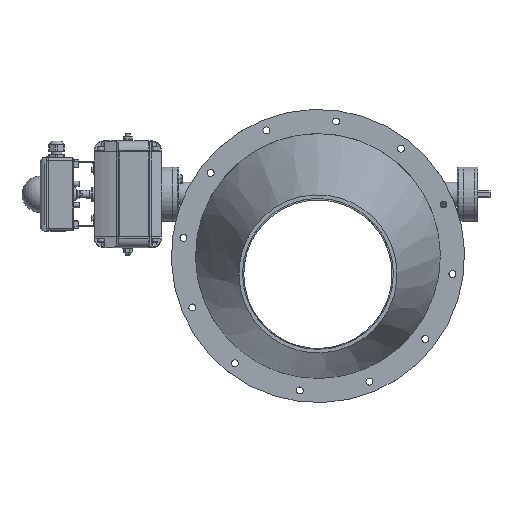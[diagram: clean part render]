
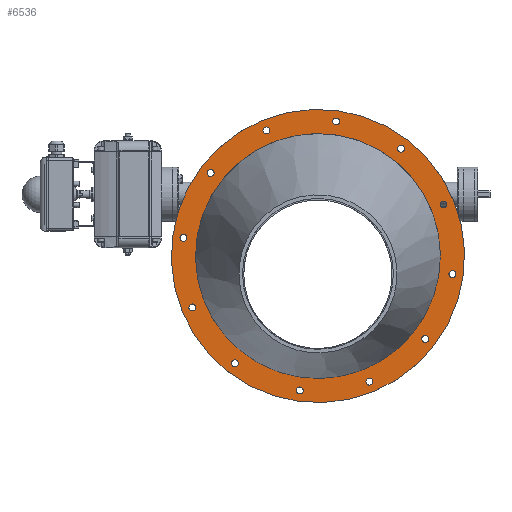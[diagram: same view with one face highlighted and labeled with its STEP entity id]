
A CAD part, top view. The second image highlights one B-rep face of the part: STEP entity #6536.
In plain terms, the highlighted planar face has unit normal (0, 0, 1) as drawn and (0, 0, -1) by its records, which use the part's own axes.
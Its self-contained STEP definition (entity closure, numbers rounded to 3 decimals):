
#5823=CARTESIAN_POINT('',(188.252,-111.978,0.0));
#5824=VERTEX_POINT('',#5823);
#5825=CARTESIAN_POINT('',(194.002,-111.978,0.0));
#5826=DIRECTION('',(0.0,0.0,1.0));
#5827=DIRECTION('',(1.0,0.0,0.0));
#5828=AXIS2_PLACEMENT_3D('',#5825,#5826,#5827);
#5829=CIRCLE('',#5828,5.75);
#5830=EDGE_CURVE('',#5824,#5824,#5829,.T.);
#5872=CARTESIAN_POINT('',(218.25,0.025,0.0));
#5873=VERTEX_POINT('',#5872);
#5874=CARTESIAN_POINT('',(224.,0.025,0.0));
#5875=DIRECTION('',(0.0,0.0,1.0));
#5876=DIRECTION('',(1.0,0.0,0.0));
#5877=AXIS2_PLACEMENT_3D('',#5874,#5875,#5876);
#5878=CIRCLE('',#5877,5.75);
#5879=EDGE_CURVE('',#5873,#5873,#5878,.T.);
#5921=CARTESIAN_POINT('',(188.227,112.022,0.0));
#5922=VERTEX_POINT('',#5921);
#5923=CARTESIAN_POINT('',(193.977,112.022,0.0));
#5924=DIRECTION('',(0.0,0.0,1.0));
#5925=DIRECTION('',(1.0,0.0,0.0));
#5926=AXIS2_PLACEMENT_3D('',#5923,#5924,#5925);
#5927=CIRCLE('',#5926,5.75);
#5928=EDGE_CURVE('',#5922,#5922,#5927,.T.);
#5970=CARTESIAN_POINT('',(106.228,194.002,0.0));
#5971=VERTEX_POINT('',#5970);
#5972=CARTESIAN_POINT('',(111.978,194.002,0.0));
#5973=DIRECTION('',(0.0,0.0,1.0));
#5974=DIRECTION('',(1.0,0.0,0.0));
#5975=AXIS2_PLACEMENT_3D('',#5972,#5973,#5974);
#5976=CIRCLE('',#5975,5.75);
#5977=EDGE_CURVE('',#5971,#5971,#5976,.T.);
#6019=CARTESIAN_POINT('',(-199.727,-112.022,0.0));
#6020=VERTEX_POINT('',#6019);
#6021=CARTESIAN_POINT('',(-193.977,-112.022,0.0));
#6022=DIRECTION('',(0.0,0.0,1.0));
#6023=DIRECTION('',(1.0,0.0,0.0));
#6024=AXIS2_PLACEMENT_3D('',#6021,#6022,#6023);
#6025=CIRCLE('',#6024,5.75);
#6026=EDGE_CURVE('',#6020,#6020,#6025,.T.);
#6068=CARTESIAN_POINT('',(-117.728,-194.002,0.0));
#6069=VERTEX_POINT('',#6068);
#6070=CARTESIAN_POINT('',(-111.978,-194.002,0.0));
#6071=DIRECTION('',(0.0,0.0,1.0));
#6072=DIRECTION('',(1.0,0.0,0.0));
#6073=AXIS2_PLACEMENT_3D('',#6070,#6071,#6072);
#6074=CIRCLE('',#6073,5.75);
#6075=EDGE_CURVE('',#6069,#6069,#6074,.T.);
#6117=CARTESIAN_POINT('',(-5.725,-224.,0.0));
#6118=VERTEX_POINT('',#6117);
#6119=CARTESIAN_POINT('',(0.025,-224.,0.0));
#6120=DIRECTION('',(0.0,0.0,1.0));
#6121=DIRECTION('',(1.0,0.0,0.0));
#6122=AXIS2_PLACEMENT_3D('',#6119,#6120,#6121);
#6123=CIRCLE('',#6122,5.75);
#6124=EDGE_CURVE('',#6118,#6118,#6123,.T.);
#6166=CARTESIAN_POINT('',(106.272,-193.977,0.0));
#6167=VERTEX_POINT('',#6166);
#6168=CARTESIAN_POINT('',(112.022,-193.977,0.0));
#6169=DIRECTION('',(0.0,0.0,1.0));
#6170=DIRECTION('',(1.0,0.0,0.0));
#6171=AXIS2_PLACEMENT_3D('',#6168,#6169,#6170);
#6172=CIRCLE('',#6171,5.75);
#6173=EDGE_CURVE('',#6167,#6167,#6172,.T.);
#6215=CARTESIAN_POINT('',(-229.75,-0.025,0.0));
#6216=VERTEX_POINT('',#6215);
#6217=CARTESIAN_POINT('',(-224.,-0.025,0.0));
#6218=DIRECTION('',(0.0,0.0,1.0));
#6219=DIRECTION('',(1.0,0.0,0.0));
#6220=AXIS2_PLACEMENT_3D('',#6217,#6218,#6219);
#6221=CIRCLE('',#6220,5.75);
#6222=EDGE_CURVE('',#6216,#6216,#6221,.T.);
#6264=CARTESIAN_POINT('',(-199.752,111.978,0.0));
#6265=VERTEX_POINT('',#6264);
#6266=CARTESIAN_POINT('',(-194.002,111.978,0.0));
#6267=DIRECTION('',(0.0,0.0,1.0));
#6268=DIRECTION('',(1.0,0.0,0.0));
#6269=AXIS2_PLACEMENT_3D('',#6266,#6267,#6268);
#6270=CIRCLE('',#6269,5.75);
#6271=EDGE_CURVE('',#6265,#6265,#6270,.T.);
#6313=CARTESIAN_POINT('',(-117.772,193.977,0.0));
#6314=VERTEX_POINT('',#6313);
#6315=CARTESIAN_POINT('',(-112.022,193.977,0.0));
#6316=DIRECTION('',(0.0,0.0,1.0));
#6317=DIRECTION('',(1.0,0.0,0.0));
#6318=AXIS2_PLACEMENT_3D('',#6315,#6316,#6317);
#6319=CIRCLE('',#6318,5.75);
#6320=EDGE_CURVE('',#6314,#6314,#6319,.T.);
#6362=CARTESIAN_POINT('',(-5.775,224.,0.0));
#6363=VERTEX_POINT('',#6362);
#6364=CARTESIAN_POINT('',(-0.025,224.,0.0));
#6365=DIRECTION('',(0.0,0.0,1.0));
#6366=DIRECTION('',(1.0,0.0,0.0));
#6367=AXIS2_PLACEMENT_3D('',#6364,#6365,#6366);
#6368=CIRCLE('',#6367,5.75);
#6369=EDGE_CURVE('',#6363,#6363,#6368,.T.);
#6401=CARTESIAN_POINT('',(202.,0.,0.0));
#6402=VERTEX_POINT('',#6401);
#6403=CARTESIAN_POINT('',(0.0,0.0,0.0));
#6404=DIRECTION('',(0.0,0.0,1.0));
#6405=DIRECTION('',(-1.0,0.0,0.0));
#6406=AXIS2_PLACEMENT_3D('',#6403,#6404,#6405);
#6407=CIRCLE('',#6406,202.);
#6408=EDGE_CURVE('',#6402,#6402,#6407,.T.);
#6429=CARTESIAN_POINT('',(242.,0.,0.0));
#6430=VERTEX_POINT('',#6429);
#6431=CARTESIAN_POINT('',(0.0,0.0,0.0));
#6432=DIRECTION('',(0.0,0.0,-1.0));
#6433=DIRECTION('',(-1.0,0.0,0.0));
#6434=AXIS2_PLACEMENT_3D('',#6431,#6432,#6433);
#6435=CIRCLE('',#6434,242.);
#6436=EDGE_CURVE('',#6430,#6430,#6435,.T.);
#6489=CARTESIAN_POINT('',(0.0,0.0,0.0));
#6490=DIRECTION('',(0.0,0.0,-1.0));
#6491=DIRECTION('',(-1.0,0.0,0.0));
#6492=AXIS2_PLACEMENT_3D('',#6489,#6490,#6491);
#6493=PLANE('',#6492);
#6494=ORIENTED_EDGE('',*,*,#6436,.T.);
#6495=EDGE_LOOP('',(#6494));
#6496=FACE_OUTER_BOUND('',#6495,.T.);
#6497=ORIENTED_EDGE('',*,*,#5830,.T.);
#6498=EDGE_LOOP('',(#6497));
#6499=FACE_BOUND('',#6498,.T.);
#6500=ORIENTED_EDGE('',*,*,#5879,.T.);
#6501=EDGE_LOOP('',(#6500));
#6502=FACE_BOUND('',#6501,.T.);
#6503=ORIENTED_EDGE('',*,*,#5928,.T.);
#6504=EDGE_LOOP('',(#6503));
#6505=FACE_BOUND('',#6504,.T.);
#6506=ORIENTED_EDGE('',*,*,#5977,.T.);
#6507=EDGE_LOOP('',(#6506));
#6508=FACE_BOUND('',#6507,.T.);
#6509=ORIENTED_EDGE('',*,*,#6026,.T.);
#6510=EDGE_LOOP('',(#6509));
#6511=FACE_BOUND('',#6510,.T.);
#6512=ORIENTED_EDGE('',*,*,#6075,.T.);
#6513=EDGE_LOOP('',(#6512));
#6514=FACE_BOUND('',#6513,.T.);
#6515=ORIENTED_EDGE('',*,*,#6124,.T.);
#6516=EDGE_LOOP('',(#6515));
#6517=FACE_BOUND('',#6516,.T.);
#6518=ORIENTED_EDGE('',*,*,#6173,.T.);
#6519=EDGE_LOOP('',(#6518));
#6520=FACE_BOUND('',#6519,.T.);
#6521=ORIENTED_EDGE('',*,*,#6222,.T.);
#6522=EDGE_LOOP('',(#6521));
#6523=FACE_BOUND('',#6522,.T.);
#6524=ORIENTED_EDGE('',*,*,#6271,.T.);
#6525=EDGE_LOOP('',(#6524));
#6526=FACE_BOUND('',#6525,.T.);
#6527=ORIENTED_EDGE('',*,*,#6320,.T.);
#6528=EDGE_LOOP('',(#6527));
#6529=FACE_BOUND('',#6528,.T.);
#6530=ORIENTED_EDGE('',*,*,#6369,.T.);
#6531=EDGE_LOOP('',(#6530));
#6532=FACE_BOUND('',#6531,.T.);
#6533=ORIENTED_EDGE('',*,*,#6408,.T.);
#6534=EDGE_LOOP('',(#6533));
#6535=FACE_BOUND('',#6534,.T.);
#6536=ADVANCED_FACE('',(#6496,#6499,#6502,#6505,#6508,#6511,#6514,#6517,#6520,#6523,#6526,#6529,#6532,#6535),#6493,.T.);
